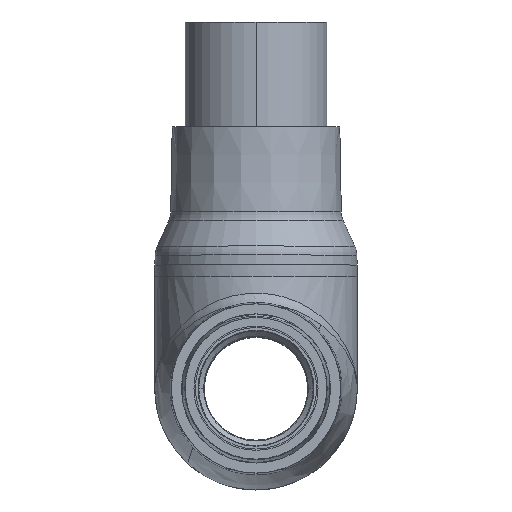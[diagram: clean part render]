
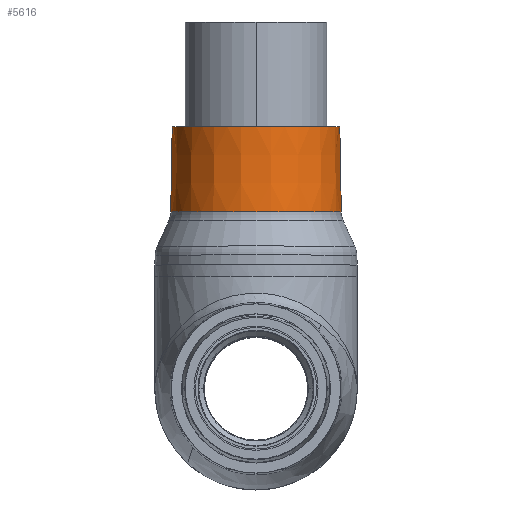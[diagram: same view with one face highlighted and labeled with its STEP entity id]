
A CAD part, top view. The second image highlights one B-rep face of the part: STEP entity #5616.
In plain terms, the highlighted conical face has half-angle 1 degrees and reference radius 37.25 mm.
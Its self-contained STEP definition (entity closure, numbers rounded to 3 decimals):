
#31 = CONICAL_SURFACE ( 'NONE', #32, 37.25, 0.017 ) ;
#32 = AXIS2_PLACEMENT_3D ( 'NONE', #15892, #15890, #15887 ) ;
#1796 = CIRCLE ( 'NONE', #1801, 37.912 ) ;
#1801 = AXIS2_PLACEMENT_3D ( 'NONE', #10046, #10047, #10048 ) ;
#3551 = EDGE_CURVE ( 'NONE', #4496, #4499, #1796, .T. ) ;
#3605 = EDGE_CURVE ( 'NONE', #4518, #4516, #10220, .T. ) ;
#3607 = EDGE_CURVE ( 'NONE', #4518, #4496, #10368, .T. ) ;
#3609 = EDGE_CURVE ( 'NONE', #4516, #4499, #10216, .T. ) ;
#3861 = EDGE_LOOP ( 'NONE', ( #4320, #4321, #4322, #4323 ) ) ;
#4320 = ORIENTED_EDGE ( 'NONE', *, *, #3605, .F. ) ;
#4321 = ORIENTED_EDGE ( 'NONE', *, *, #3607, .T. ) ;
#4322 = ORIENTED_EDGE ( 'NONE', *, *, #3551, .T. ) ;
#4323 = ORIENTED_EDGE ( 'NONE', *, *, #3609, .F. ) ;
#4496 = VERTEX_POINT ( 'NONE', #14726 ) ;
#4499 = VERTEX_POINT ( 'NONE', #14729 ) ;
#4516 = VERTEX_POINT ( 'NONE', #14746 ) ;
#4518 = VERTEX_POINT ( 'NONE', #14748 ) ;
#5616 = ADVANCED_FACE ( 'NONE', ( #15889 ), #31, .T. ) ;
#10046 = CARTESIAN_POINT ( 'NONE',  ( -0.314, 68.449, 7.056 ) ) ;
#10047 = DIRECTION ( 'NONE',  ( 0., 1., 0. ) ) ;
#10048 = DIRECTION ( 'NONE',  ( 1., 0., 0. ) ) ;
#10216 = LINE ( 'NONE', #10367, #10227 ) ;
#10220 = CIRCLE ( 'NONE', #10223, 37.25 ) ;
#10222 = VECTOR ( 'NONE', #10372, 1000. ) ;
#10223 = AXIS2_PLACEMENT_3D ( 'NONE', #10364, #10365, #10366 ) ;
#10227 = VECTOR ( 'NONE', #10378, 1000. ) ;
#10363 = CARTESIAN_POINT ( 'NONE',  ( -37.564, 106.357, 7.056 ) ) ;
#10364 = CARTESIAN_POINT ( 'NONE',  ( -0.314, 106.357, 7.056 ) ) ;
#10365 = DIRECTION ( 'NONE',  ( 0., 1., 0. ) ) ;
#10366 = DIRECTION ( 'NONE',  ( 1., 0., 0. ) ) ;
#10367 = CARTESIAN_POINT ( 'NONE',  ( 36.936, 106.357, 7.056 ) ) ;
#10368 = LINE ( 'NONE', #10363, #10222 ) ;
#10372 = DIRECTION ( 'NONE',  ( -0.017, -1., 0. ) ) ;
#10378 = DIRECTION ( 'NONE',  ( 0.017, -1., 0. ) ) ;
#14726 = CARTESIAN_POINT ( 'NONE',  ( -38.225, 68.449, 7.056 ) ) ;
#14729 = CARTESIAN_POINT ( 'NONE',  ( 37.598, 68.449, 7.056 ) ) ;
#14746 = CARTESIAN_POINT ( 'NONE',  ( 36.936, 106.357, 7.056 ) ) ;
#14748 = CARTESIAN_POINT ( 'NONE',  ( -37.564, 106.357, 7.056 ) ) ;
#15887 = DIRECTION ( 'NONE',  ( 1., 0., 0. ) ) ;
#15889 = FACE_OUTER_BOUND ( 'NONE', #3861, .T. ) ;
#15890 = DIRECTION ( 'NONE',  ( 0., -1., 0. ) ) ;
#15892 = CARTESIAN_POINT ( 'NONE',  ( -0.314, 106.357, 7.056 ) ) ;
